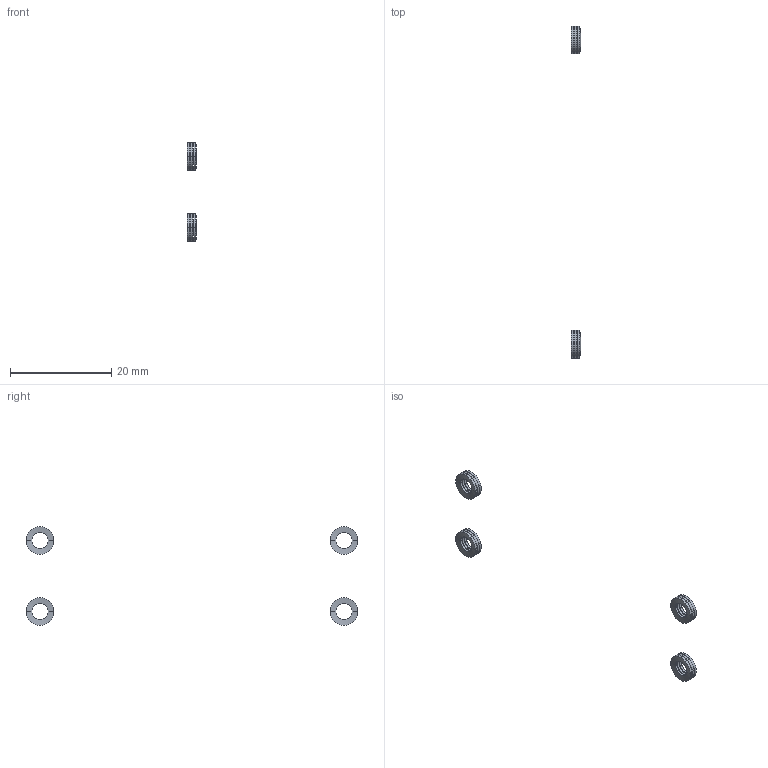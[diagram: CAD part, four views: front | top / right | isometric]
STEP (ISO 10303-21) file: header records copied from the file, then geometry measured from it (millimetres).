
FILE_DESCRIPTION(/* description */ (''),/* implementation_level */ '2;1');
FILE_NAME(/* name */ 'Y-F390~1',/* time_stamp */ '2014-02-14T19:37:27+01:00',/* author */ (''),/* organization */ (''),/* preprocessor_version */ 'ST-DEVELOPER v14',/* originating_system */ '',/* authorisation */ '');
FILE_SCHEMA (('AUTOMOTIVE_DESIGN'));
Length unit declared in the file: millimetre
Products named in the file (2): Document; washer Schnorr-like, lock, M3
Assembly tree (6 placements, depth 2):
  Document
    washer Schnorr-like, lock, M3  x6
Bounding box: 1.8 x 65.5 x 19.5 mm (x, y, z)
Surface area: 528.2 mm2 (no closed solid volume)
Topology: 0 solids, 96 shells, 96 faces, 384 edges, 384 vertices
Faces by surface type: bspline 96
Entity records: 5031 total; most frequent: CARTESIAN_POINT 2473, B_SPLINE_CURVE_WITH_KNOTS 336, ORIENTED_EDGE 224, PCURVE 224, DEFINITIONAL_REPRESENTATION 224, SURFACE_CURVE 224, EDGE_CURVE 224, VERTEX_POINT 224
